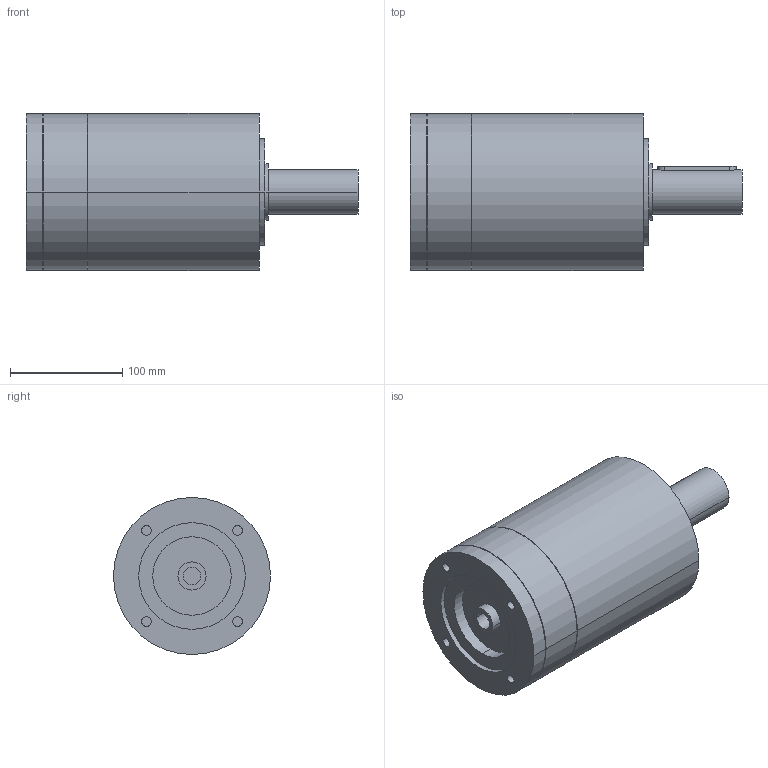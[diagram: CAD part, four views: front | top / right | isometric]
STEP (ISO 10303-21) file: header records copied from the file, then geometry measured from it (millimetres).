
FILE_DESCRIPTION(('CoCreate Modeling STEP Export'),'2;1');
FILE_NAME('GPR150_ig-9-12-16-20-28-35_40_B14_16_P03.stp','2014-08-19T17:02:58',(''),(''),'CoCreate Modeling STEP processor for AP214 (Solid Model)','CoCreate Modeling 16.00C 25-Feb-2009 (C) Parametric Technology GmbH','');
FILE_SCHEMA(('AUTOMOTIVE_DESIGN { 1 0 10303 214 1 1 1 1 }'));
Length unit declared in the file: millimetre
Products named in the file (2): GPR150_ig-9-12-16-20-28-35_40_B14_16_P03
Assembly tree (1 placements, depth 2):
  GPR150_ig-9-12-16-20-28-35_40_B14_16_P03
    GPR150_ig-9-12-16-20-28-35_40_B14_16_P03
Bounding box: 296 x 140 x 140 mm (x, y, z)
Volume: 3250001.4 mm3; surface area: 149445.7 mm2
Topology: 1 solids, 1 shells, 80 faces, 199 edges, 141 vertices
Faces by surface type: cylinder 48, plane 26, cone 6
Entity records: 2045 total; most frequent: ORIENTED_EDGE 394, CARTESIAN_POINT 392, DIRECTION 266, EDGE_CURVE 197, VERTEX_POINT 141, AXIS2_PLACEMENT_3D 103, EDGE_LOOP 102, FACE_OUTER_BOUND 80
